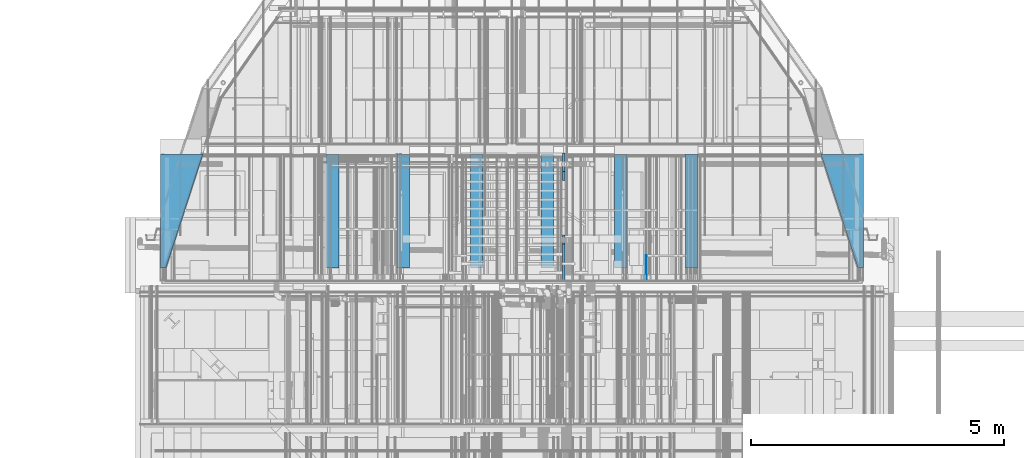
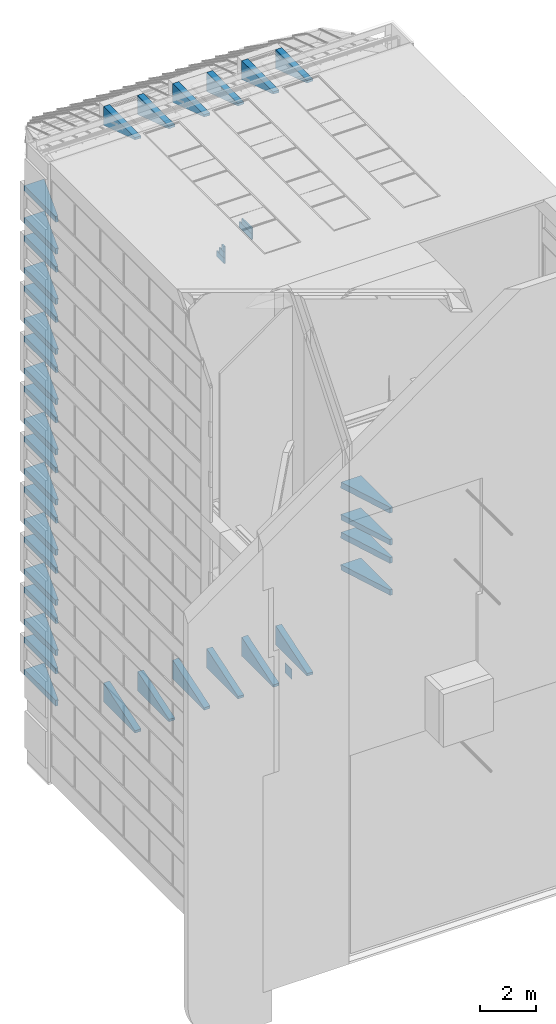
# One storey, part 33 of 583: 42 walls.
"""IFC2X3 building model written with IfcOpenShell, lengths in metres."""

from ifc_helpers import new_model, entity, si_unit, converted_unit, derived_unit, money_unit, direction, frame, frame_2d, origin_with_axes, place, context, subcontext, project, spatial, rectangle, extrude, faceted_brep, material, type_object, element, save


model = new_model("IFC2X3")

# Units and contexts
model_context = context("Model", 3, precision=1e-05, world=origin_with_axes(), true_north=direction((0.0, 1.0)))
body_context = subcontext(model_context, "Body", "Model", "MODEL_VIEW", scale=1.0)
ifc_project = project(units=[si_unit("LENGTHUNIT", "METRE"), si_unit("AREAUNIT", "SQUARE_METRE"), si_unit("VOLUMEUNIT", "CUBIC_METRE"), si_unit("ABSORBEDDOSEUNIT", "GRAY"), si_unit("AMOUNTOFSUBSTANCEUNIT", "MOLE"), si_unit("DOSEEQUIVALENTUNIT", "SIEVERT"), si_unit("ELECTRICCAPACITANCEUNIT", "FARAD"), si_unit("ELECTRICCHARGEUNIT", "COULOMB"), si_unit("ELECTRICCONDUCTANCEUNIT", "SIEMENS"), si_unit("ELECTRICCURRENTUNIT", "AMPERE"), si_unit("ELECTRICRESISTANCEUNIT", "OHM"), si_unit("ELECTRICVOLTAGEUNIT", "VOLT"), si_unit("ENERGYUNIT", "JOULE"), si_unit("FORCEUNIT", "NEWTON"), si_unit("FREQUENCYUNIT", "HERTZ"), si_unit("ILLUMINANCEUNIT", "LUX"), si_unit("INDUCTANCEUNIT", "HENRY"), si_unit("LUMINOUSFLUXUNIT", "LUMEN"), si_unit("LUMINOUSINTENSITYUNIT", "CANDELA"), si_unit("MAGNETICFLUXDENSITYUNIT", "TESLA"), si_unit("MAGNETICFLUXUNIT", "WEBER"), si_unit("MASSUNIT", "GRAM"), converted_unit("PLANEANGLEUNIT", "degree", entity("IfcReal", 0.0174532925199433), si_unit("PLANEANGLEUNIT", "RADIAN"), dimensions=[0, 0, 0, 0, 0, 0, 0]), si_unit("POWERUNIT", "WATT"), si_unit("PRESSUREUNIT", "PASCAL"), si_unit("RADIOACTIVITYUNIT", "BECQUEREL"), si_unit("SOLIDANGLEUNIT", "STERADIAN"), si_unit("THERMODYNAMICTEMPERATUREUNIT", "KELVIN"), si_unit("TIMEUNIT", "SECOND"), derived_unit("ACCELERATIONUNIT", [(si_unit("LENGTHUNIT", "METRE"), 1), (si_unit("TIMEUNIT", "SECOND"), -2)]), derived_unit("ANGULARVELOCITYUNIT", [(converted_unit("PLANEANGLEUNIT", "degree", entity("IfcReal", 0.0174532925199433), si_unit("PLANEANGLEUNIT", "RADIAN"), dimensions=[0, 0, 0, 0, 0, 0, 0]), 1), (si_unit("TIMEUNIT", "SECOND"), -1)]), derived_unit("CURVATUREUNIT", [(converted_unit("PLANEANGLEUNIT", "degree", entity("IfcReal", 0.0174532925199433), si_unit("PLANEANGLEUNIT", "RADIAN"), dimensions=[0, 0, 0, 0, 0, 0, 0]), 1), (si_unit("LENGTHUNIT", "METRE"), -1)]), derived_unit("DYNAMICVISCOSITYUNIT", [(si_unit("PRESSUREUNIT", "PASCAL"), 1), (si_unit("TIMEUNIT", "SECOND"), 1)]), derived_unit("HEATFLUXDENSITYUNIT", [(si_unit("POWERUNIT", "WATT"), 1), (si_unit("LENGTHUNIT", "METRE"), -2)]), derived_unit("HEATINGVALUEUNIT", [(si_unit("ENERGYUNIT", "JOULE"), 1), (si_unit("MASSUNIT", "GRAM"), -1)]), derived_unit("INTEGERCOUNTRATEUNIT", [(si_unit("TIMEUNIT", "SECOND"), -1)]), derived_unit("IONCONCENTRATIONUNIT", [(si_unit("MASSUNIT", "GRAM"), 1), (si_unit("VOLUMEUNIT", "CUBIC_METRE"), -1)]), derived_unit("ISOTHERMALMOISTURECAPACITYUNIT", [(si_unit("VOLUMEUNIT", "CUBIC_METRE"), 1), (si_unit("MASSUNIT", "GRAM"), -1)]), derived_unit("KINEMATICVISCOSITYUNIT", [(si_unit("AREAUNIT", "SQUARE_METRE"), 1), (si_unit("TIMEUNIT", "SECOND"), -1)]), derived_unit("LINEARFORCEUNIT", [(si_unit("FORCEUNIT", "NEWTON"), 1), (si_unit("LENGTHUNIT", "METRE"), -1)]), derived_unit("LINEARMOMENTUNIT", [(si_unit("FORCEUNIT", "NEWTON"), 1), (si_unit("LENGTHUNIT", "METRE"), -1)]), derived_unit("LINEARSTIFFNESSUNIT", [(si_unit("FORCEUNIT", "NEWTON"), 1), (si_unit("LENGTHUNIT", "METRE"), -1)]), derived_unit("LINEARVELOCITYUNIT", [(si_unit("LENGTHUNIT", "METRE"), 1), (si_unit("TIMEUNIT", "SECOND"), -1)]), derived_unit("LUMINOUSINTENSITYDISTRIBUTIONUNIT", [(si_unit("LUMINOUSINTENSITYUNIT", "CANDELA"), 1), (si_unit("LUMINOUSFLUXUNIT", "LUMEN"), -1)]), derived_unit("MASSDENSITYUNIT", [(si_unit("MASSUNIT", "GRAM"), 1), (si_unit("VOLUMEUNIT", "CUBIC_METRE"), -1)]), derived_unit("MASSFLOWRATEUNIT", [(si_unit("MASSUNIT", "GRAM"), 1), (si_unit("TIMEUNIT", "SECOND"), -1)]), derived_unit("MASSPERLENGTHUNIT", [(si_unit("MASSUNIT", "GRAM"), 1), (si_unit("LENGTHUNIT", "METRE"), -1)]), derived_unit("MODULUSOFELASTICITYUNIT", [(si_unit("FORCEUNIT", "NEWTON"), 1), (si_unit("AREAUNIT", "SQUARE_METRE"), -1)]), derived_unit("MODULUSOFLINEARSUBGRADEREACTIONUNIT", [(si_unit("FORCEUNIT", "NEWTON"), 1), (si_unit("LENGTHUNIT", "METRE"), -2)]), derived_unit("MODULUSOFROTATIONALSUBGRADEREACTIONUNIT", [(si_unit("FORCEUNIT", "NEWTON"), 1), (si_unit("LENGTHUNIT", "METRE"), 1)]), derived_unit("MODULUSOFSUBGRADEREACTIONUNIT", [(si_unit("FORCEUNIT", "NEWTON"), 1), (si_unit("VOLUMEUNIT", "CUBIC_METRE"), -1)]), derived_unit("MOISTUREDIFFUSIVITYUNIT", [(si_unit("VOLUMEUNIT", "CUBIC_METRE"), 1), (si_unit("TIMEUNIT", "SECOND"), -1)]), derived_unit("MOLECULARWEIGHTUNIT", [(si_unit("MASSUNIT", "GRAM"), 1), (si_unit("AMOUNTOFSUBSTANCEUNIT", "MOLE"), -1)]), derived_unit("PLANARFORCEUNIT", [(si_unit("FORCEUNIT", "NEWTON"), 1), (si_unit("LENGTHUNIT", "METRE"), -2)]), derived_unit("ROTATIONALFREQUENCYUNIT", [(si_unit("TIMEUNIT", "SECOND"), -1)]), derived_unit("ROTATIONALMASSUNIT", [(si_unit("MASSUNIT", "GRAM"), 1), (si_unit("LENGTHUNIT", "METRE"), 2)]), derived_unit("ROTATIONALSTIFFNESSUNIT", [(si_unit("FORCEUNIT", "NEWTON"), 1), (si_unit("LENGTHUNIT", "METRE"), 1), (converted_unit("PLANEANGLEUNIT", "degree", entity("IfcReal", 0.0174532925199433), si_unit("PLANEANGLEUNIT", "RADIAN"), dimensions=[0, 0, 0, 0, 0, 0, 0]), -1)]), derived_unit("SECTIONAREAINTEGRALUNIT", [(si_unit("LENGTHUNIT", "METRE"), 5)]), derived_unit("SECTIONMODULUSUNIT", [(si_unit("LENGTHUNIT", "METRE"), 3)]), derived_unit("SHEARMODULUSUNIT", [(si_unit("FORCEUNIT", "NEWTON"), 1), (si_unit("AREAUNIT", "SQUARE_METRE"), -1)]), derived_unit("SOUNDPOWERUNIT", [(si_unit("ENERGYUNIT", "JOULE"), 1), (si_unit("TIMEUNIT", "SECOND"), -1)]), derived_unit("SPECIFICHEATCAPACITYUNIT", [(si_unit("FORCEUNIT", "NEWTON"), 1), (si_unit("MASSUNIT", "GRAM"), -1), (si_unit("THERMODYNAMICTEMPERATUREUNIT", "KELVIN"), -1)]), derived_unit("TEMPERATUREGRADIENTUNIT", [(si_unit("THERMODYNAMICTEMPERATUREUNIT", "KELVIN"), 1), (si_unit("LENGTHUNIT", "METRE"), -1)]), derived_unit("THERMALADMITTANCEUNIT", [(si_unit("POWERUNIT", "WATT"), 1), (si_unit("AREAUNIT", "SQUARE_METRE"), -1), (si_unit("THERMODYNAMICTEMPERATUREUNIT", "KELVIN"), -1)]), derived_unit("THERMALCONDUCTANCEUNIT", [(si_unit("POWERUNIT", "WATT"), 1), (si_unit("LENGTHUNIT", "METRE"), -1), (si_unit("THERMODYNAMICTEMPERATUREUNIT", "KELVIN"), -1)]), derived_unit("THERMALEXPANSIONCOEFFICIENTUNIT", [(si_unit("THERMODYNAMICTEMPERATUREUNIT", "KELVIN"), -1)]), derived_unit("THERMALRESISTANCEUNIT", [(si_unit("AREAUNIT", "SQUARE_METRE"), 1), (si_unit("POWERUNIT", "WATT"), -1)]), derived_unit("THERMALTRANSMITTANCEUNIT", [(si_unit("POWERUNIT", "WATT"), 1), (si_unit("AREAUNIT", "SQUARE_METRE"), -1), (si_unit("THERMODYNAMICTEMPERATUREUNIT", "KELVIN"), -1)]), derived_unit("TORQUEUNIT", [(si_unit("FORCEUNIT", "NEWTON"), 1), (si_unit("LENGTHUNIT", "METRE"), 1)]), derived_unit("VAPORPERMEABILITYUNIT", [(si_unit("MASSUNIT", "GRAM"), 1), (si_unit("TIMEUNIT", "SECOND"), -1)]), derived_unit("VOLUMETRICFLOWRATEUNIT", [(si_unit("VOLUMEUNIT", "CUBIC_METRE"), 1), (si_unit("TIMEUNIT", "SECOND"), -1)]), derived_unit("WARPINGCONSTANTUNIT", [(si_unit("LENGTHUNIT", "METRE"), 6)]), derived_unit("WARPINGMOMENTUNIT", [(si_unit("FORCEUNIT", "NEWTON"), 1), (si_unit("LENGTHUNIT", "METRE"), 2)]), money_unit("GBP")], contexts=[model_context])

# Site, building, storey
site_placement = place(None, origin_with_axes())
site = spatial("IfcSite", under=ifc_project, at=site_placement, Name="Site", CompositionType="ELEMENT")
building_placement = place(site_placement, origin_with_axes())
building = spatial("IfcBuilding", under=site, at=building_placement, Name="Building01", CompositionType="ELEMENT")
storey_placement = place(building_placement, frame((0.0, 0.0, 20.78), z_axis=(0.0, 0.0, 1.0), x_axis=(1.0, 0.0, 0.0)))
storey = spatial("IfcBuildingStorey", under=building, at=storey_placement, Name="RL", CompositionType="ELEMENT", Elevation=20.78)

# Walls
ifc_material_1 = material(Name="A_BSUK_Roofs")
wall_type_1 = type_object("IfcWallType", Name="A-Walls-ExternalBlock", PredefinedType="NOTDEFINED")
wall_1_placement = place(storey_placement, frame((0.594572, 15.23, -17.959976), z_axis=(0.0, 1.0, 0.0), x_axis=(-1.0, 0.0, 0.0)))
element("IfcWall", 1, at=wall_1_placement, inside=storey, type_object=wall_type_1, material=ifc_material_1, Name="7C", ObjectType="A-Walls-ExternalBlock", context=body_context, shape_type="Brep", body=[
    faceted_brep([(-0.015772, 0.25, 0.0), (0.0, 0.0, 0.0), (-0.731069, 0.0, 2.25), (-0.746841, 0.25, 2.25), (0.094632, 0.25, 0.0), (0.094632, 0.0, 0.0), (0.094632, 0.0, 2.25), (0.094632, 0.25, 2.25)], [[[0, 1, 2, 3]], [[1, 0, 4, 5]], [[2, 1, 5, 6]], [[0, 3, 7, 4]], [[3, 2, 6, 7]], [[5, 4, 7, 6]]]),
])
wall_2_placement = place(storey_placement, frame((0.499939, 15.23, -16.310024), z_axis=(0.0, 1.0, 0.0), x_axis=(1.0, 0.0, 0.0)))
element("IfcWall", 2, at=wall_2_placement, inside=storey, type_object=wall_type_1, material=ifc_material_1, Name="7C", ObjectType="A-Walls-ExternalBlock", context=body_context, shape_type="Brep", body=[
    faceted_brep([(0.094632, 0.0, 0.0), (0.110404, 0.25, 0.0), (0.841474, 0.25, 2.25), (0.825702, 0.0, 2.25), (0.0, 0.0, 0.0), (0.0, 0.25, 0.0), (0.0, 0.0, 2.25), (0.0, 0.25, 2.25)], [[[0, 1, 2, 3]], [[1, 0, 4, 5]], [[0, 3, 6, 4]], [[2, 1, 5, 7]], [[3, 2, 7, 6]], [[5, 4, 6, 7]]]),
])
wall_3_placement = place(storey_placement, frame((0.499939, 15.23, -15.519976), z_axis=(0.0, 1.0, 0.0), x_axis=(1.0, 0.0, 0.0)))
element("IfcWall", 3, at=wall_3_placement, inside=storey, type_object=wall_type_1, material=ifc_material_1, Name="7C", ObjectType="A-Walls-ExternalBlock", context=body_context, shape_type="Brep", body=[
    faceted_brep([(0.110404, 0.0, 0.0), (0.094632, 0.25, 0.0), (0.825702, 0.25, 2.25), (0.841474, 0.0, 2.25), (0.0, 0.0, 0.0), (0.0, 0.25, 0.0), (0.0, 0.0, 2.25), (0.0, 0.25, 2.25)], [[[0, 1, 2, 3]], [[1, 0, 4, 5]], [[0, 3, 6, 4]], [[2, 1, 5, 7]], [[3, 2, 7, 6]], [[5, 4, 6, 7]]]),
])
wall_4_placement = place(storey_placement, frame((0.499939, 15.23, -14.119976), z_axis=(0.0, 1.0, 0.0), x_axis=(1.0, 0.0, 0.0)))
element("IfcWall", 4, at=wall_4_placement, inside=storey, type_object=wall_type_1, material=ifc_material_1, Name="7C", ObjectType="A-Walls-ExternalBlock", context=body_context, shape_type="Brep", body=[
    faceted_brep([(0.094632, 0.0, 0.0), (0.110404, 0.250049, 0.0), (0.841474, 0.250049, 2.25), (0.825702, 0.0, 2.25), (0.0, 0.0, 0.0), (0.0, 0.250049, 0.0), (0.0, 0.0, 2.25), (0.0, 0.250049, 2.25)], [[[0, 1, 2, 3]], [[1, 0, 4, 5]], [[0, 3, 6, 4]], [[2, 1, 5, 7]], [[3, 2, 7, 6]], [[5, 4, 6, 7]]]),
])
wall_5_placement = place(storey_placement, frame((0.499939, 15.23, -13.329976), z_axis=(0.0, 1.0, 0.0), x_axis=(1.0, 0.0, 0.0)))
element("IfcWall", 5, at=wall_5_placement, inside=storey, type_object=wall_type_1, material=ifc_material_1, Name="7C", ObjectType="A-Walls-ExternalBlock", context=body_context, shape_type="Brep", body=[
    faceted_brep([(0.110404, 0.0, 0.0), (0.094632, 0.25, 0.0), (0.825702, 0.25, 2.25), (0.841474, 0.0, 2.25), (0.0, 0.0, 0.0), (0.0, 0.25, 0.0), (0.0, 0.0, 2.25), (0.0, 0.25, 2.25)], [[[0, 1, 2, 3]], [[1, 0, 4, 5]], [[0, 3, 6, 4]], [[2, 1, 5, 7]], [[3, 2, 7, 6]], [[5, 4, 6, 7]]]),
])
wall_6_placement = place(storey_placement, frame((0.499939, 15.23, -11.929976), z_axis=(0.0, 1.0, 0.0), x_axis=(1.0, 0.0, 0.0)))
element("IfcWall", 6, at=wall_6_placement, inside=storey, type_object=wall_type_1, material=ifc_material_1, Name="7C", ObjectType="A-Walls-ExternalBlock", context=body_context, shape_type="Brep", body=[
    faceted_brep([(0.094632, 0.0, 0.0), (0.110404, 0.250049, 0.0), (0.841474, 0.250049, 2.25), (0.825702, 0.0, 2.25), (0.0, 0.0, 0.0), (0.0, 0.250049, 0.0), (0.0, 0.0, 2.25), (0.0, 0.250049, 2.25)], [[[0, 1, 2, 3]], [[1, 0, 4, 5]], [[0, 3, 6, 4]], [[2, 1, 5, 7]], [[3, 2, 7, 6]], [[5, 4, 6, 7]]]),
])
wall_7_placement = place(storey_placement, frame((0.499939, 15.23, -11.139976), z_axis=(0.0, 1.0, 0.0), x_axis=(1.0, 0.0, 0.0)))
element("IfcWall", 7, at=wall_7_placement, inside=storey, type_object=wall_type_1, material=ifc_material_1, Name="7C", ObjectType="A-Walls-ExternalBlock", context=body_context, shape_type="Brep", body=[
    faceted_brep([(0.110404, 0.0, 0.0), (0.094632, 0.25, 0.0), (0.825702, 0.25, 2.25), (0.841474, 0.0, 2.25), (0.0, 0.0, 0.0), (0.0, 0.25, 0.0), (0.0, 0.0, 2.25), (0.0, 0.25, 2.25)], [[[0, 1, 2, 3]], [[1, 0, 4, 5]], [[0, 3, 6, 4]], [[2, 1, 5, 7]], [[3, 2, 7, 6]], [[5, 4, 6, 7]]]),
])
wall_8_placement = place(storey_placement, frame((0.499939, 15.23, -9.739976), z_axis=(0.0, 1.0, 0.0), x_axis=(1.0, 0.0, 0.0)))
element("IfcWall", 8, at=wall_8_placement, inside=storey, type_object=wall_type_1, material=ifc_material_1, Name="7C", ObjectType="A-Walls-ExternalBlock", context=body_context, shape_type="Brep", body=[
    faceted_brep([(0.094632, 0.0, 0.0), (0.110404, 0.250049, 0.0), (0.841474, 0.250049, 2.25), (0.825702, 0.0, 2.25), (0.0, 0.0, 0.0), (0.0, 0.250049, 0.0), (0.0, 0.0, 2.25), (0.0, 0.250049, 2.25)], [[[0, 1, 2, 3]], [[1, 0, 4, 5]], [[0, 3, 6, 4]], [[2, 1, 5, 7]], [[3, 2, 7, 6]], [[5, 4, 6, 7]]]),
])
wall_9_placement = place(storey_placement, frame((0.499939, 15.23, -8.949976), z_axis=(0.0, 1.0, 0.0), x_axis=(1.0, 0.0, 0.0)))
element("IfcWall", 9, at=wall_9_placement, inside=storey, type_object=wall_type_1, material=ifc_material_1, Name="7C", ObjectType="A-Walls-ExternalBlock", context=body_context, shape_type="Brep", body=[
    faceted_brep([(0.110404, 0.0, 0.0), (0.094632, 0.25, 0.0), (0.825702, 0.25, 2.25), (0.841474, 0.0, 2.25), (0.0, 0.0, 0.0), (0.0, 0.25, 0.0), (0.0, 0.0, 2.25), (0.0, 0.25, 2.25)], [[[0, 1, 2, 3]], [[1, 0, 4, 5]], [[0, 3, 6, 4]], [[2, 1, 5, 7]], [[3, 2, 7, 6]], [[5, 4, 6, 7]]]),
])
wall_10_placement = place(storey_placement, frame((0.499939, 15.23, -7.550024), z_axis=(0.0, 1.0, 0.0), x_axis=(1.0, 0.0, 0.0)))
element("IfcWall", 10, at=wall_10_placement, inside=storey, type_object=wall_type_1, material=ifc_material_1, Name="7C", ObjectType="A-Walls-ExternalBlock", context=body_context, shape_type="Brep", body=[
    faceted_brep([(0.094632, 0.0, 0.0), (0.110404, 0.25, 0.0), (0.841474, 0.25, 2.25), (0.825702, 0.0, 2.25), (0.0, 0.0, 0.0), (0.0, 0.25, 0.0), (0.0, 0.0, 2.25), (0.0, 0.25, 2.25)], [[[0, 1, 2, 3]], [[1, 0, 4, 5]], [[0, 3, 6, 4]], [[2, 1, 5, 7]], [[3, 2, 7, 6]], [[5, 4, 6, 7]]]),
])
wall_11_placement = place(storey_placement, frame((0.499939, 15.23, -6.759976), z_axis=(0.0, 1.0, 0.0), x_axis=(1.0, 0.0, 0.0)))
element("IfcWall", 11, at=wall_11_placement, inside=storey, type_object=wall_type_1, material=ifc_material_1, Name="7C", ObjectType="A-Walls-ExternalBlock", context=body_context, shape_type="Brep", body=[
    faceted_brep([(0.110404, 0.0, 0.0), (0.094632, 0.25, 0.0), (0.825702, 0.25, 2.25), (0.841474, 0.0, 2.25), (0.0, 0.0, 0.0), (0.0, 0.25, 0.0), (0.0, 0.0, 2.25), (0.0, 0.25, 2.25)], [[[0, 1, 2, 3]], [[1, 0, 4, 5]], [[0, 3, 6, 4]], [[2, 1, 5, 7]], [[3, 2, 7, 6]], [[5, 4, 6, 7]]]),
])
wall_12_placement = place(storey_placement, frame((0.499939, 15.23, -5.360024), z_axis=(0.0, 1.0, 0.0), x_axis=(1.0, 0.0, 0.0)))
element("IfcWall", 12, at=wall_12_placement, inside=storey, type_object=wall_type_1, material=ifc_material_1, Name="7C", ObjectType="A-Walls-ExternalBlock", context=body_context, shape_type="Brep", body=[
    faceted_brep([(0.094632, 0.0, 0.0), (0.110404, 0.25, 0.0), (0.841474, 0.25, 2.25), (0.825702, 0.0, 2.25), (0.0, 0.0, 0.0), (0.0, 0.25, 0.0), (0.0, 0.0, 2.25), (0.0, 0.25, 2.25)], [[[0, 1, 2, 3]], [[1, 0, 4, 5]], [[0, 3, 6, 4]], [[2, 1, 5, 7]], [[3, 2, 7, 6]], [[5, 4, 6, 7]]]),
])
wall_13_placement = place(storey_placement, frame((0.499939, 15.23, -4.569976), z_axis=(0.0, 1.0, 0.0), x_axis=(1.0, 0.0, 0.0)))
element("IfcWall", 13, at=wall_13_placement, inside=storey, type_object=wall_type_1, material=ifc_material_1, Name="7C", ObjectType="A-Walls-ExternalBlock", context=body_context, shape_type="Brep", body=[
    faceted_brep([(0.110404, 0.0, 0.0), (0.094632, 0.25, 0.0), (0.825702, 0.25, 2.25), (0.841474, 0.0, 2.25), (0.0, 0.0, 0.0), (0.0, 0.25, 0.0), (0.0, 0.0, 2.25), (0.0, 0.25, 2.25)], [[[0, 1, 2, 3]], [[1, 0, 4, 5]], [[0, 3, 6, 4]], [[2, 1, 5, 7]], [[3, 2, 7, 6]], [[5, 4, 6, 7]]]),
])
wall_14_placement = place(storey_placement, frame((0.499939, 15.23, -3.170024), z_axis=(0.0, 1.0, 0.0), x_axis=(1.0, 0.0, 0.0)))
element("IfcWall", 14, at=wall_14_placement, inside=storey, type_object=wall_type_1, material=ifc_material_1, Name="7C", ObjectType="A-Walls-ExternalBlock", context=body_context, shape_type="Brep", body=[
    faceted_brep([(0.094632, 0.0, 0.0), (0.110404, 0.25, 0.0), (0.841474, 0.25, 2.25), (0.825702, 0.0, 2.25), (0.0, 0.0, 0.0), (0.0, 0.25, 0.0), (0.0, 0.0, 2.25), (0.0, 0.25, 2.25)], [[[0, 1, 2, 3]], [[1, 0, 4, 5]], [[0, 3, 6, 4]], [[2, 1, 5, 7]], [[3, 2, 7, 6]], [[5, 4, 6, 7]]]),
])
wall_15_placement = place(storey_placement, frame((0.499939, 15.23, -2.379976), z_axis=(0.0, 1.0, 0.0), x_axis=(1.0, 0.0, 0.0)))
element("IfcWall", 15, at=wall_15_placement, inside=storey, type_object=wall_type_1, material=ifc_material_1, Name="7C", ObjectType="A-Walls-ExternalBlock", context=body_context, shape_type="Brep", body=[
    faceted_brep([(0.110404, 0.0, 0.0), (0.094632, 0.25, 0.0), (0.825702, 0.25, 2.25), (0.841474, 0.0, 2.25), (0.0, 0.0, 0.0), (0.0, 0.25, 0.0), (0.0, 0.0, 2.25), (0.0, 0.25, 2.25)], [[[0, 1, 2, 3]], [[1, 0, 4, 5]], [[0, 3, 6, 4]], [[2, 1, 5, 7]], [[3, 2, 7, 6]], [[5, 4, 6, 7]]]),
])
wall_16_placement = place(storey_placement, frame((0.499939, 15.23, -0.980024), z_axis=(0.0, 1.0, 0.0), x_axis=(1.0, 0.0, 0.0)))
element("IfcWall", 16, at=wall_16_placement, inside=storey, type_object=wall_type_1, material=ifc_material_1, Name="7C", ObjectType="A-Walls-ExternalBlock", context=body_context, shape_type="Brep", body=[
    faceted_brep([(0.094632, 0.0, 0.0), (0.110404, 0.25, 0.0), (0.841474, 0.25, 2.25), (0.825702, 0.0, 2.25), (0.0, 0.0, 0.0), (0.0, 0.25, 0.0), (0.0, 0.0, 2.25), (0.0, 0.25, 2.25)], [[[0, 1, 2, 3]], [[1, 0, 4, 5]], [[0, 3, 6, 4]], [[2, 1, 5, 7]], [[3, 2, 7, 6]], [[5, 4, 6, 7]]]),
])
wall_17_placement = place(storey_placement, frame((0.499939, 15.23, -0.189976), z_axis=(0.0, 1.0, 0.0), x_axis=(1.0, 0.0, 0.0)))
element("IfcWall", 17, at=wall_17_placement, inside=storey, type_object=wall_type_1, material=ifc_material_1, Name="7C", ObjectType="A-Walls-ExternalBlock", context=body_context, shape_type="Brep", body=[
    faceted_brep([(0.110404, 0.0, 0.0), (0.094632, 0.25, 0.0), (0.825702, 0.25, 2.25), (0.841474, 0.0, 2.25), (0.0, 0.0, 0.0), (0.0, 0.25, 0.0), (0.0, 0.0, 2.25), (0.0, 0.25, 2.25)], [[[0, 1, 2, 3]], [[1, 0, 4, 5]], [[0, 3, 6, 4]], [[2, 1, 5, 7]], [[3, 2, 7, 6]], [[5, 4, 6, 7]]]),
])
wall_18_placement = place(storey_placement, frame((0.499939, 15.23, 1.209976), z_axis=(0.0, 1.0, 0.0), x_axis=(1.0, 0.0, 0.0)))
element("IfcWall", 18, at=wall_18_placement, inside=storey, type_object=wall_type_1, material=ifc_material_1, Name="7C", ObjectType="A-Walls-ExternalBlock", context=body_context, shape_type="Brep", body=[
    faceted_brep([(0.094632, 0.0, 0.0), (0.110404, 0.25, 0.0), (0.841474, 0.25, 2.25), (0.825702, 0.0, 2.25), (0.0, 0.0, 0.0), (0.0, 0.25, 0.0), (0.0, 0.0, 2.25), (0.0, 0.25, 2.25)], [[[0, 1, 2, 3]], [[1, 0, 4, 5]], [[0, 3, 6, 4]], [[2, 1, 5, 7]], [[3, 2, 7, 6]], [[5, 4, 6, 7]]]),
])
wall_19_placement = place(storey_placement, frame((0.499939, 15.23, 2.000024), z_axis=(0.0, 1.0, 0.0), x_axis=(1.0, 0.0, 0.0)))
element("IfcWall", 19, at=wall_19_placement, inside=storey, type_object=wall_type_1, material=ifc_material_1, Name="7C", ObjectType="A-Walls-ExternalBlock", context=body_context, shape_type="Brep", body=[
    faceted_brep([(0.110404, 0.0, 0.0), (0.094632, 0.25, 0.0), (0.825702, 0.25, 2.25), (0.841474, 0.0, 2.25), (0.0, 0.0, 0.0), (0.0, 0.25, 0.0), (0.0, 0.0, 2.25), (0.0, 0.25, 2.25)], [[[0, 1, 2, 3]], [[1, 0, 4, 5]], [[0, 3, 6, 4]], [[2, 1, 5, 7]], [[3, 2, 7, 6]], [[5, 4, 6, 7]]]),
])
for number, where, z_axis, x_axis, name in (
    (20, (0.499939, 15.23, 3.399976), (0.0, 1.0, 0.0), (1.0, 0.0, 0.0), "7C"),
    (21, (9.474964, 15.23, -20.280061), (0.0, 1.0, 0.0), (0.0, 0.0, 1.0), "7C"),
):
    element("IfcWall", number, at=place(storey_placement, frame(where, z_axis=z_axis, x_axis=x_axis)), inside=storey, type_object=wall_type_1, material=ifc_material_1, Name=name, ObjectType="A-Walls-ExternalBlock", context=body_context, shape_type="Brep", body=[
        faceted_brep([(0.094632, 0.0, 0.0), (0.110404, 0.25, 0.0), (0.841474, 0.25, 2.25), (0.825702, 0.0, 2.25), (0.0, 0.0, 0.0), (0.0, 0.25, 0.0), (0.0, 0.0, 2.25), (0.0, 0.25, 2.25)], [[[0, 1, 2, 3]], [[1, 0, 4, 5]], [[0, 3, 6, 4]], [[2, 1, 5, 7]], [[3, 2, 7, 6]], [[5, 4, 6, 7]]]),
    ])
wall_20_placement = place(storey_placement, frame((8.024915, 15.23, -20.280061), z_axis=(0.0, 1.0, 0.0), x_axis=(0.0, 0.0, 1.0)))
element("IfcWall", 22, at=wall_20_placement, inside=storey, type_object=wall_type_1, material=ifc_material_1, Name="7C", ObjectType="A-Walls-ExternalBlock", context=body_context, shape_type="Brep", body=[
    faceted_brep([(0.110404, 0.0, 0.0), (0.094632, 0.25, 0.0), (0.825702, 0.25, 2.25), (0.841474, 0.0, 2.25), (0.0, 0.0, 0.0), (0.0, 0.25, 0.0), (0.0, 0.0, 2.25), (0.0, 0.25, 2.25)], [[[0, 1, 2, 3]], [[1, 0, 4, 5]], [[0, 3, 6, 4]], [[2, 1, 5, 7]], [[3, 2, 7, 6]], [[5, 4, 6, 7]]]),
])
wall_21_placement = place(storey_placement, frame((11.124915, 15.23, -20.185428), z_axis=(0.0, 1.0, 0.0), x_axis=(0.0, 0.0, -1.0)))
element("IfcWall", 23, at=wall_21_placement, inside=storey, type_object=wall_type_1, material=ifc_material_1, Name="7C", ObjectType="A-Walls-ExternalBlock", context=body_context, shape_type="Brep", body=[
    faceted_brep([(-0.015772, 0.25, 0.0), (0.0, 0.0, 0.0), (-0.731069, 0.0, 2.25), (-0.746841, 0.25, 2.25), (0.094632, 0.25, 0.0), (0.094632, 0.0, 0.0), (0.094632, 0.0, 2.25), (0.094632, 0.25, 2.25)], [[[0, 1, 2, 3]], [[1, 0, 4, 5]], [[2, 1, 5, 6]], [[0, 3, 7, 4]], [[3, 2, 6, 7]], [[5, 4, 7, 6]]]),
])
wall_22_placement = place(storey_placement, frame((6.624965, 15.23, -20.280061), z_axis=(0.0, 1.0, 0.0), x_axis=(0.0, 0.0, 1.0)))
element("IfcWall", 24, at=wall_22_placement, inside=storey, type_object=wall_type_1, material=ifc_material_1, Name="7C", ObjectType="A-Walls-ExternalBlock", context=body_context, shape_type="Brep", body=[
    faceted_brep([(0.094632, 0.0, 0.0), (0.110404, 0.25, 0.0), (0.841474, 0.25, 2.25), (0.825702, 0.0, 2.25), (0.0, 0.0, 0.0), (0.0, 0.25, 0.0), (0.0, 0.0, 2.25), (0.0, 0.25, 2.25)], [[[0, 1, 2, 3]], [[1, 0, 4, 5]], [[0, 3, 6, 4]], [[2, 1, 5, 7]], [[3, 2, 7, 6]], [[5, 4, 6, 7]]]),
])
wall_23_placement = place(storey_placement, frame((5.174915, 15.23, -20.280061), z_axis=(0.0, 1.0, 0.0), x_axis=(0.0, 0.0, 1.0)))
element("IfcWall", 25, at=wall_23_placement, inside=storey, type_object=wall_type_1, material=ifc_material_1, Name="7C", ObjectType="A-Walls-ExternalBlock", context=body_context, shape_type="Brep", body=[
    faceted_brep([(0.108898, 0.0, 0.0), (0.093126, 0.25, 0.0), (0.824196, 0.25, 2.25), (0.839968, 0.0, 2.25), (0.0, 0.0, 0.0), (0.0, 0.25, 0.0), (0.0, 0.0, 2.25), (0.0, 0.25, 2.25)], [[[0, 1, 2, 3]], [[1, 0, 4, 5]], [[0, 3, 6, 4]], [[2, 1, 5, 7]], [[3, 2, 7, 6]], [[5, 4, 6, 7]]]),
])
for number, where, z_axis, x_axis, name in (
    (26, (3.774964, 15.23, -20.185428), (0.0, 1.0, 0.0), (0.0, 0.0, -1.0), "7C"),
    (27, (14.305428, 15.23, -17.959976), (0.0, 1.0, 0.0), (1.0, 0.0, 0.0), "7C"),
):
    element("IfcWall", number, at=place(storey_placement, frame(where, z_axis=z_axis, x_axis=x_axis)), inside=storey, type_object=wall_type_1, material=ifc_material_1, Name=name, ObjectType="A-Walls-ExternalBlock", context=body_context, shape_type="Brep", body=[
        faceted_brep([(0.0, 0.0, 0.0), (-0.015772, -0.25, 0.0), (-0.746841, -0.25, 2.25), (-0.731069, 0.0, 2.25), (0.094632, 0.0, 0.0), (0.094632, -0.25, 0.0), (0.094632, -0.25, 2.25), (0.094632, 0.0, 2.25)], [[[0, 1, 2, 3]], [[1, 0, 4, 5]], [[2, 1, 5, 6]], [[0, 3, 7, 4]], [[3, 2, 6, 7]], [[5, 4, 7, 6]]]),
    ])
wall_24_placement = place(storey_placement, frame((14.400061, 15.23, -16.310024), z_axis=(0.0, 1.0, 0.0), x_axis=(-1.0, 0.0, 0.0)))
element("IfcWall", 28, at=wall_24_placement, inside=storey, type_object=wall_type_1, material=ifc_material_1, Name="7C", ObjectType="A-Walls-ExternalBlock", context=body_context, shape_type="Brep", body=[
    faceted_brep([(0.110404, -0.25, 0.0), (0.094632, 0.0, 0.0), (0.825702, 0.0, 2.25), (0.841474, -0.25, 2.25), (0.0, -0.25, 0.0), (0.0, 0.0, 0.0), (0.0, -0.25, 2.25), (0.0, 0.0, 2.25)], [[[0, 1, 2, 3]], [[1, 0, 4, 5]], [[0, 3, 6, 4]], [[2, 1, 5, 7]], [[3, 2, 7, 6]], [[5, 4, 6, 7]]]),
])
wall_25_placement = place(storey_placement, frame((14.400061, 15.23, -15.519976), z_axis=(0.0, 1.0, 0.0), x_axis=(-1.0, 0.0, 0.0)))
element("IfcWall", 29, at=wall_25_placement, inside=storey, type_object=wall_type_1, material=ifc_material_1, Name="7C", ObjectType="A-Walls-ExternalBlock", context=body_context, shape_type="Brep", body=[
    faceted_brep([(0.093126, -0.25, 0.0), (0.108898, 0.0, 0.0), (0.839968, 0.0, 2.25), (0.824196, -0.25, 2.25), (0.0, -0.25, 0.0), (0.0, 0.0, 0.0), (0.0, -0.25, 2.25), (0.0, 0.0, 2.25)], [[[0, 1, 2, 3]], [[1, 0, 4, 5]], [[0, 3, 6, 4]], [[2, 1, 5, 7]], [[3, 2, 7, 6]], [[5, 4, 6, 7]]]),
])
for number, where, z_axis, x_axis, name in (
    (30, (14.400061, 15.23, -14.120024), (0.0, 1.0, 0.0), (-1.0, 0.0, 0.0), "7C"),
    (31, (9.474964, 15.23, 5.700061), (0.0, 1.0, 0.0), (0.0, 0.0, -1.0), "7C"),
):
    element("IfcWall", number, at=place(storey_placement, frame(where, z_axis=z_axis, x_axis=x_axis)), inside=storey, type_object=wall_type_1, material=ifc_material_1, Name=name, ObjectType="A-Walls-ExternalBlock", context=body_context, shape_type="Brep", body=[
        faceted_brep([(0.110404, -0.25, 0.0), (0.094632, 0.0, 0.0), (0.825702, 0.0, 2.25), (0.841474, -0.25, 2.25), (0.0, -0.25, 0.0), (0.0, 0.0, 0.0), (0.0, -0.25, 2.25), (0.0, 0.0, 2.25)], [[[0, 1, 2, 3]], [[1, 0, 4, 5]], [[0, 3, 6, 4]], [[2, 1, 5, 7]], [[3, 2, 7, 6]], [[5, 4, 6, 7]]]),
    ])
wall_26_placement = place(storey_placement, frame((8.024915, 15.23, 5.700061), z_axis=(0.0, 1.0, 0.0), x_axis=(0.0, 0.0, -1.0)))
element("IfcWall", 32, at=wall_26_placement, inside=storey, type_object=wall_type_1, material=ifc_material_1, Name="7C", ObjectType="A-Walls-ExternalBlock", context=body_context, shape_type="Brep", body=[
    faceted_brep([(0.094632, -0.25, 0.0), (0.110404, 0.0, 0.0), (0.841474, 0.0, 2.25), (0.825702, -0.25, 2.25), (0.0, -0.25, 0.0), (0.0, 0.0, 0.0), (0.0, -0.25, 2.25), (0.0, 0.0, 2.25)], [[[0, 1, 2, 3]], [[1, 0, 4, 5]], [[0, 3, 6, 4]], [[2, 1, 5, 7]], [[3, 2, 7, 6]], [[5, 4, 6, 7]]]),
])
wall_27_placement = place(storey_placement, frame((11.124915, 15.23, 5.605428), z_axis=(0.0, 1.0, 0.0), x_axis=(0.0, 0.0, 1.0)))
element("IfcWall", 33, at=wall_27_placement, inside=storey, type_object=wall_type_1, material=ifc_material_1, Name="7C", ObjectType="A-Walls-ExternalBlock", context=body_context, shape_type="Brep", body=[
    faceted_brep([(0.0, 0.0, 0.0), (-0.015772, -0.25, 0.0), (-0.746841, -0.25, 2.25), (-0.731069, 0.0, 2.25), (0.094632, 0.0, 0.0), (0.094632, -0.25, 0.0), (0.094632, -0.25, 2.25), (0.094632, 0.0, 2.25)], [[[0, 1, 2, 3]], [[1, 0, 4, 5]], [[2, 1, 5, 6]], [[0, 3, 7, 4]], [[3, 2, 6, 7]], [[5, 4, 7, 6]]]),
])
wall_28_placement = place(storey_placement, frame((6.624964, 15.23, 5.700061), z_axis=(0.0, 1.0, 0.0), x_axis=(0.0, 0.0, -1.0)))
element("IfcWall", 34, at=wall_28_placement, inside=storey, type_object=wall_type_1, material=ifc_material_1, Name="7C", ObjectType="A-Walls-ExternalBlock", context=body_context, shape_type="Brep", body=[
    faceted_brep([(0.110404, -0.25, 0.0), (0.094632, 0.0, 0.0), (0.825702, 0.0, 2.25), (0.841474, -0.25, 2.25), (0.0, -0.25, 0.0), (0.0, 0.0, 0.0), (0.0, -0.25, 2.25), (0.0, 0.0, 2.25)], [[[0, 1, 2, 3]], [[1, 0, 4, 5]], [[0, 3, 6, 4]], [[2, 1, 5, 7]], [[3, 2, 7, 6]], [[5, 4, 6, 7]]]),
])
wall_29_placement = place(storey_placement, frame((5.174915, 15.23, 5.700061), z_axis=(0.0, 1.0, 0.0), x_axis=(0.0, 0.0, -1.0)))
element("IfcWall", 35, at=wall_29_placement, inside=storey, type_object=wall_type_1, material=ifc_material_1, Name="7C", ObjectType="A-Walls-ExternalBlock", context=body_context, shape_type="Brep", body=[
    faceted_brep([(0.094632, -0.25, 0.0), (0.110404, 0.0, 0.0), (0.841474, 0.0, 2.25), (0.825702, -0.25, 2.25), (0.0, -0.25, 0.0), (0.0, 0.0, 0.0), (0.0, -0.25, 2.25), (0.0, 0.0, 2.25)], [[[0, 1, 2, 3]], [[1, 0, 4, 5]], [[0, 3, 6, 4]], [[2, 1, 5, 7]], [[3, 2, 7, 6]], [[5, 4, 6, 7]]]),
])
wall_30_placement = place(storey_placement, frame((3.774964, 15.23, 5.605428), z_axis=(0.0, 1.0, 0.0), x_axis=(0.0, 0.0, 1.0)))
element("IfcWall", 36, at=wall_30_placement, inside=storey, type_object=wall_type_1, material=ifc_material_1, Name="7C", ObjectType="A-Walls-ExternalBlock", context=body_context, shape_type="Brep", body=[
    faceted_brep([(-0.015772, 0.25, 0.0), (0.0, 0.0, 0.0), (-0.731069, 0.0, 2.25), (-0.746841, 0.25, 2.25), (0.094632, 0.25, 0.0), (0.094632, 0.0, 0.0), (0.094632, 0.0, 2.25), (0.094632, 0.25, 2.25)], [[[0, 1, 2, 3]], [[1, 0, 4, 5]], [[2, 1, 5, 6]], [[0, 3, 7, 4]], [[3, 2, 6, 7]], [[5, 4, 7, 6]]]),
])
ifc_material_2 = material(Name="A_BSUK_WallsInternal")
wall_type_2 = type_object("IfcWallType", Name="A-Walls-Internal", PredefinedType="NOTDEFINED")
wall_31_placement = place(storey_placement, frame((8.449915, 14.98, -0.240024), z_axis=(0.0, 1.0, 0.0), x_axis=(0.0, 0.0, 1.0)))
element("IfcWall", 37, at=wall_31_placement, inside=storey, type_object=wall_type_2, material=ifc_material_2, Name="A-Walls-Internal", ObjectType="A-Walls-Internal", context=body_context, shape_type="SweptSolid", body=[
    extrude(rectangle(XDim=0.25, YDim=0.05, at=frame_2d((0.125, 0.025), x_axis=(1.0, 0.0))), origin_with_axes(), (0.0, 0.0, 1.0), 0.9),
])
wall_32_placement = place(storey_placement, frame((8.449915, 14.98, 0.009976), z_axis=(0.0, 1.0, 0.0), x_axis=(0.0, 0.0, 1.0)))
element("IfcWall", 38, at=wall_32_placement, inside=storey, type_object=wall_type_2, material=ifc_material_2, Name="A-Walls-Internal", ObjectType="A-Walls-Internal", context=body_context, shape_type="SweptSolid", body=[
    extrude(rectangle(XDim=0.25, YDim=0.05, at=frame_2d((0.125, 0.025), x_axis=(1.0, 0.0))), origin_with_axes(), (0.0, 0.0, 1.0), 0.72),
])
wall_33_placement = place(storey_placement, frame((8.449915, 16.96, -1.990024), z_axis=(0.0, 1.0, 0.0), x_axis=(0.0, 0.0, 1.0)))
element("IfcWall", 39, at=wall_33_placement, inside=storey, type_object=wall_type_2, material=ifc_material_2, Name="A-Walls-Internal", ObjectType="A-Walls-Internal", context=body_context, shape_type="SweptSolid", body=[
    extrude(rectangle(XDim=0.25, YDim=0.05, at=frame_2d((0.125, 0.025), x_axis=(1.0, 0.0))), origin_with_axes(), (0.0, 0.0, 1.0), 0.18),
])
wall_34_placement = place(storey_placement, frame((8.449915, 16.96, -2.240024), z_axis=(0.0, 1.0, 0.0), x_axis=(0.0, 0.0, 1.0)))
element("IfcWall", 40, at=wall_34_placement, inside=storey, type_object=wall_type_2, material=ifc_material_2, Name="A-Walls-Internal", ObjectType="A-Walls-Internal", context=body_context, shape_type="SweptSolid", body=[
    extrude(rectangle(XDim=0.25, YDim=0.05, at=frame_2d((0.125, 0.025), x_axis=(1.0, 0.0))), origin_with_axes(), (0.0, 0.0, 1.0), 0.36),
])
wall_35_placement = place(storey_placement, frame((8.449915, 16.96, -2.490024), z_axis=(0.0, 1.0, 0.0), x_axis=(0.0, 0.0, 1.0)))
element("IfcWall", 41, at=wall_35_placement, inside=storey, type_object=wall_type_2, material=ifc_material_2, Name="A-Walls-Internal", ObjectType="A-Walls-Internal", context=body_context, shape_type="SweptSolid", body=[
    extrude(rectangle(XDim=0.25, YDim=0.05, at=frame_2d((0.125, 0.025), x_axis=(1.0, 0.0))), origin_with_axes(), (0.0, 0.0, 1.0), 0.54),
])
ifc_material_3 = material(Name="A_BSUK_Walls_Timber")
wall_type_3 = type_object("IfcWallType", Name="default", PredefinedType="NOTDEFINED")
wall_36_placement = place(storey_placement, frame((10.114939, 14.98, -19.56), z_axis=(0.0, 1.0, 0.0), x_axis=(0.0, 0.0, -1.0)))
element("IfcWall", 42, at=wall_36_placement, inside=storey, type_object=wall_type_3, material=ifc_material_3, Name="default", ObjectType="default", context=body_context, shape_type="SweptSolid", body=[
    extrude(rectangle(XDim=0.440061, YDim=0.015, at=frame_2d((0.22003, 0.0075), x_axis=(-1.0, 0.0))), origin_with_axes(), (0.0, 0.0, 1.0), 0.5),
])

save(model, "model.ifc")
